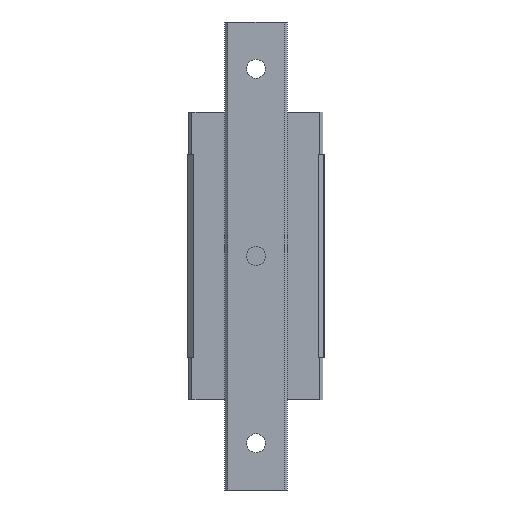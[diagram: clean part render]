
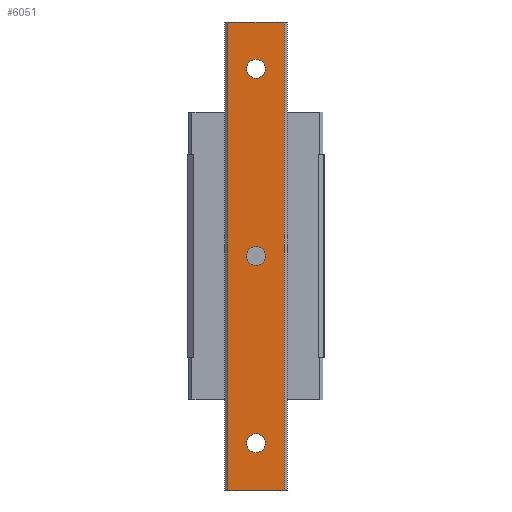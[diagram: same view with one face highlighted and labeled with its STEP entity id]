
A CAD part, front view. The second image highlights one B-rep face of the part: STEP entity #6051.
In plain terms, the highlighted planar face has unit normal (0, -1, 0).
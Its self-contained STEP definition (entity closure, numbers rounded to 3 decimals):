
#4975=DIRECTION('',(-1.,0.,0.));
#4976=VECTOR('',#4975,18.);
#4977=CARTESIAN_POINT('',(9.,-17.5,-75.));
#4978=LINE('',#4977,#4976);
#4979=DIRECTION('',(0.,0.,-1.));
#4980=VECTOR('',#4979,150.);
#4981=CARTESIAN_POINT('',(9.,-17.5,75.));
#4982=LINE('',#4981,#4980);
#4983=CARTESIAN_POINT('',(0.,-17.5,0.));
#4984=DIRECTION('',(0.,-1.,0.));
#4985=DIRECTION('',(1.,0.,0.));
#4986=AXIS2_PLACEMENT_3D('',#4983,#4984,#4985);
#4988=CARTESIAN_POINT('',(0.,-17.5,0.));
#4989=DIRECTION('',(0.,-1.,0.));
#4990=DIRECTION('',(-1.,0.,0.));
#4991=AXIS2_PLACEMENT_3D('',#4988,#4989,#4990);
#4993=CARTESIAN_POINT('',(0.,-17.5,60.));
#4994=DIRECTION('',(0.,-1.,0.));
#4995=DIRECTION('',(1.,0.,0.));
#4996=AXIS2_PLACEMENT_3D('',#4993,#4994,#4995);
#4998=CARTESIAN_POINT('',(0.,-17.5,60.));
#4999=DIRECTION('',(0.,-1.,0.));
#5000=DIRECTION('',(-1.,0.,0.));
#5001=AXIS2_PLACEMENT_3D('',#4998,#4999,#5000);
#5003=CARTESIAN_POINT('',(0.,-17.5,-60.));
#5004=DIRECTION('',(0.,-1.,0.));
#5005=DIRECTION('',(1.,0.,0.));
#5006=AXIS2_PLACEMENT_3D('',#5003,#5004,#5005);
#5008=CARTESIAN_POINT('',(0.,-17.5,-60.));
#5009=DIRECTION('',(0.,-1.,0.));
#5010=DIRECTION('',(-1.,0.,0.));
#5011=AXIS2_PLACEMENT_3D('',#5008,#5009,#5010);
#5013=DIRECTION('',(0.,0.,-1.));
#5014=VECTOR('',#5013,150.);
#5015=CARTESIAN_POINT('',(-9.,-17.5,75.));
#5016=LINE('',#5015,#5014);
#5234=DIRECTION('',(-1.,0.,0.));
#5235=VECTOR('',#5234,18.);
#5236=CARTESIAN_POINT('',(9.,-17.5,75.));
#5237=LINE('',#5236,#5235);
#5491=CARTESIAN_POINT('',(-9.,-17.5,-75.));
#5492=VERTEX_POINT('',#5491);
#5493=CARTESIAN_POINT('',(9.,-17.5,-75.));
#5494=VERTEX_POINT('',#5493);
#5567=CARTESIAN_POINT('',(9.,-17.5,75.));
#5568=VERTEX_POINT('',#5567);
#5569=CARTESIAN_POINT('',(-9.,-17.5,75.));
#5570=VERTEX_POINT('',#5569);
#5571=CARTESIAN_POINT('',(3.,-17.5,0.));
#5572=CARTESIAN_POINT('',(-3.,-17.5,0.));
#5573=VERTEX_POINT('',#5571);
#5574=VERTEX_POINT('',#5572);
#5575=CARTESIAN_POINT('',(3.,-17.5,60.));
#5576=CARTESIAN_POINT('',(-3.,-17.5,60.));
#5577=VERTEX_POINT('',#5575);
#5578=VERTEX_POINT('',#5576);
#5579=CARTESIAN_POINT('',(3.,-17.5,-60.));
#5580=CARTESIAN_POINT('',(-3.,-17.5,-60.));
#5581=VERTEX_POINT('',#5579);
#5582=VERTEX_POINT('',#5580);
#6020=CARTESIAN_POINT('',(-9.,-17.5,-75.));
#6021=DIRECTION('',(0.,-1.,0.));
#6022=DIRECTION('',(1.,0.,0.));
#6023=AXIS2_PLACEMENT_3D('',#6020,#6021,#6022);
#6024=PLANE('',#6023);
#6025=ORIENTED_EDGE('',*,*,#5712,.T.);
#6027=ORIENTED_EDGE('',*,*,#6026,.F.);
#6029=ORIENTED_EDGE('',*,*,#6028,.F.);
#6030=ORIENTED_EDGE('',*,*,#6012,.T.);
#6031=EDGE_LOOP('',(#6025,#6027,#6029,#6030));
#6032=FACE_OUTER_BOUND('',#6031,.F.);
#6034=ORIENTED_EDGE('',*,*,#6033,.T.);
#6036=ORIENTED_EDGE('',*,*,#6035,.T.);
#6037=EDGE_LOOP('',(#6034,#6036));
#6038=FACE_BOUND('',#6037,.F.);
#6040=ORIENTED_EDGE('',*,*,#6039,.T.);
#6042=ORIENTED_EDGE('',*,*,#6041,.T.);
#6043=EDGE_LOOP('',(#6040,#6042));
#6044=FACE_BOUND('',#6043,.F.);
#6046=ORIENTED_EDGE('',*,*,#6045,.T.);
#6048=ORIENTED_EDGE('',*,*,#6047,.T.);
#6049=EDGE_LOOP('',(#6046,#6048));
#6050=FACE_BOUND('',#6049,.F.);
#6051=ADVANCED_FACE('',(#6032,#6038,#6044,#6050),#6024,.T.);
#4987=CIRCLE('',#4986,3.);
#4992=CIRCLE('',#4991,3.);
#4997=CIRCLE('',#4996,3.);
#5002=CIRCLE('',#5001,3.);
#5007=CIRCLE('',#5006,3.);
#5012=CIRCLE('',#5011,3.);
#5712=EDGE_CURVE('',#5494,#5492,#4978,.T.);
#6012=EDGE_CURVE('',#5568,#5494,#4982,.T.);
#6026=EDGE_CURVE('',#5570,#5492,#5016,.T.);
#6028=EDGE_CURVE('',#5568,#5570,#5237,.T.);
#6033=EDGE_CURVE('',#5573,#5574,#4987,.T.);
#6035=EDGE_CURVE('',#5574,#5573,#4992,.T.);
#6039=EDGE_CURVE('',#5577,#5578,#4997,.T.);
#6041=EDGE_CURVE('',#5578,#5577,#5002,.T.);
#6045=EDGE_CURVE('',#5581,#5582,#5007,.T.);
#6047=EDGE_CURVE('',#5582,#5581,#5012,.T.);
